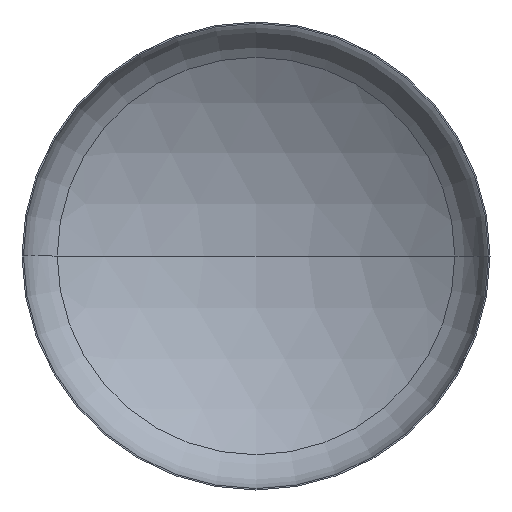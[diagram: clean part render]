
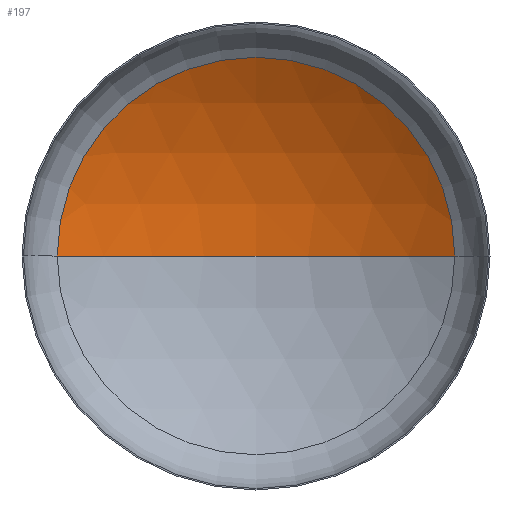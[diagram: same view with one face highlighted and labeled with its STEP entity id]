
A CAD part, front view. The second image highlights one B-rep face of the part: STEP entity #197.
In plain terms, the highlighted spherical face has radius 5600 mm.
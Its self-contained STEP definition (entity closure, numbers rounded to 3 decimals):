
#39 = ORIENTED_EDGE ( 'NONE', *, *, #280, .F. ) ;
#42 = VERTEX_POINT ( 'NONE', #263 ) ;
#94 = FACE_OUTER_BOUND ( 'NONE', #136, .T. ) ;
#110 = AXIS2_PLACEMENT_3D ( 'NONE', #229, #228, #223 ) ;
#121 = AXIS2_PLACEMENT_3D ( 'NONE', #245, #244, #261 ) ;
#132 = VERTEX_POINT ( 'NONE', #316 ) ;
#133 = AXIS2_PLACEMENT_3D ( 'NONE', #186, #198, #195 ) ;
#136 = EDGE_LOOP ( 'NONE', ( #39, #410, #167 ) ) ;
#152 = VERTEX_POINT ( 'NONE', #323 ) ;
#167 = ORIENTED_EDGE ( 'NONE', *, *, #275, .T. ) ;
#186 = CARTESIAN_POINT ( 'NONE',  ( 0., 985.329, 0. ) ) ;
#188 = CARTESIAN_POINT ( 'NONE',  ( 0., -3760.822, 0. ) ) ;
#195 = DIRECTION ( 'NONE',  ( 1., 0., 0. ) ) ;
#197 = ADVANCED_FACE ( 'NONE', ( #94 ), #399, .F. ) ;
#198 = DIRECTION ( 'NONE',  ( 0., -1., 0. ) ) ;
#223 = DIRECTION ( 'NONE',  ( 1., 0., 0. ) ) ;
#224 = AXIS2_PLACEMENT_3D ( 'NONE', #188, #308, #335 ) ;
#228 = DIRECTION ( 'NONE',  ( 0., 0., 1. ) ) ;
#229 = CARTESIAN_POINT ( 'NONE',  ( 0., -3760.822, 0. ) ) ;
#244 = DIRECTION ( 'NONE',  ( 0., 0., -1. ) ) ;
#245 = CARTESIAN_POINT ( 'NONE',  ( 0., -3760.822, 0. ) ) ;
#261 = DIRECTION ( 'NONE',  ( -1., 0., 0. ) ) ;
#263 = CARTESIAN_POINT ( 'NONE',  ( -2972.212, 985.329, 0. ) ) ;
#275 = EDGE_CURVE ( 'NONE', #152, #42, #386, .T. ) ;
#277 = EDGE_CURVE ( 'NONE', #132, #152, #334, .T. ) ;
#280 = EDGE_CURVE ( 'NONE', #132, #42, #380, .T. ) ;
#308 = DIRECTION ( 'NONE',  ( 0., 0., -1. ) ) ;
#316 = CARTESIAN_POINT ( 'NONE',  ( 0., 1839.178, 0. ) ) ;
#323 = CARTESIAN_POINT ( 'NONE',  ( 2972.212, 985.329, 0. ) ) ;
#334 = CIRCLE ( 'NONE', #121, 5600. ) ;
#335 = DIRECTION ( 'NONE',  ( -1., 0., 0. ) ) ;
#380 = CIRCLE ( 'NONE', #110, 5600. ) ;
#386 = CIRCLE ( 'NONE', #133, 2972.212 ) ;
#399 = SPHERICAL_SURFACE ( 'NONE', #224, 5600. ) ;
#410 = ORIENTED_EDGE ( 'NONE', *, *, #277, .T. ) ;
